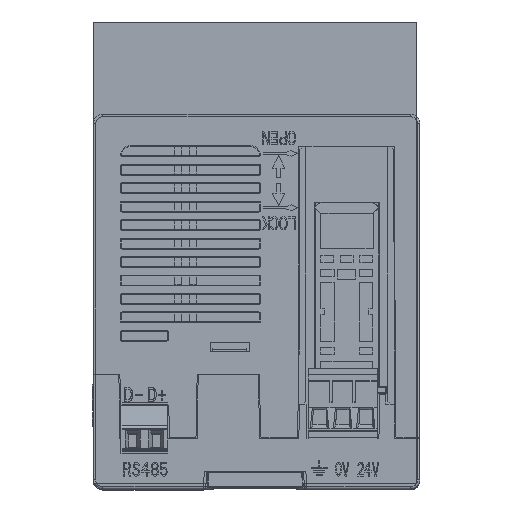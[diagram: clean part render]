
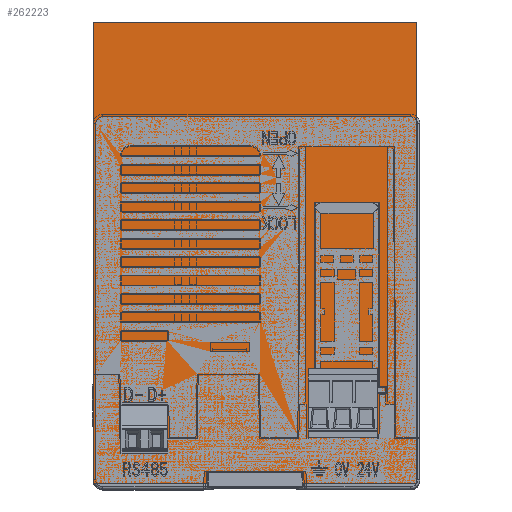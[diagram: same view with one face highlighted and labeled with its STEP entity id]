
A CAD part, top view. The second image highlights one B-rep face of the part: STEP entity #262223.
In plain terms, the highlighted planar face has unit normal (0, 0, 1).
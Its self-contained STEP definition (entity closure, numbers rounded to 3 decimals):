
#262078=DIRECTION('',(0.,-1.,0.));
#262079=VECTOR('',#262078,100.);
#262080=CARTESIAN_POINT('',(-35.,100.,56.9));
#262081=LINE('',#262080,#262079);
#262127=DIRECTION('',(-1.,0.,0.));
#262128=VECTOR('',#262127,70.);
#262129=CARTESIAN_POINT('',(35.,0.,56.9));
#262130=LINE('',#262129,#262128);
#262134=DIRECTION('',(1.,0.,0.));
#262135=VECTOR('',#262134,70.);
#262136=CARTESIAN_POINT('',(-35.,100.,56.9));
#262137=LINE('',#262136,#262135);
#262141=DIRECTION('',(0.,-1.,0.));
#262142=VECTOR('',#262141,100.);
#262143=CARTESIAN_POINT('',(35.,100.,56.9));
#262144=LINE('',#262143,#262142);
#262148=CARTESIAN_POINT('',(-35.,0.,56.9));
#262150=VERTEX_POINT('',#262148);
#262153=CARTESIAN_POINT('',(-35.,100.,56.9));
#262155=VERTEX_POINT('',#262153);
#262160=CARTESIAN_POINT('',(35.,0.,56.9));
#262161=VERTEX_POINT('',#262160);
#262162=CARTESIAN_POINT('',(35.,100.,56.9));
#262163=VERTEX_POINT('',#262162);
#262210=CARTESIAN_POINT('',(-35.,0.,56.9));
#262211=DIRECTION('',(0.,0.,1.));
#262212=DIRECTION('',(1.,0.,0.));
#262213=AXIS2_PLACEMENT_3D('',#262210,#262211,#262212);
#262214=PLANE('',#262213);
#262216=ORIENTED_EDGE('',*,*,#262215,.T.);
#262217=ORIENTED_EDGE('',*,*,#262175,.F.);
#262219=ORIENTED_EDGE('',*,*,#262218,.T.);
#262220=ORIENTED_EDGE('',*,*,#262202,.T.);
#262221=EDGE_LOOP('',(#262216,#262217,#262219,#262220));
#262222=FACE_OUTER_BOUND('',#262221,.F.);
#262223=ADVANCED_FACE('',(#262222),#262214,.T.);
#262175=EDGE_CURVE('',#262155,#262150,#262081,.T.);
#262202=EDGE_CURVE('',#262163,#262161,#262144,.T.);
#262215=EDGE_CURVE('',#262161,#262150,#262130,.T.);
#262218=EDGE_CURVE('',#262155,#262163,#262137,.T.);
